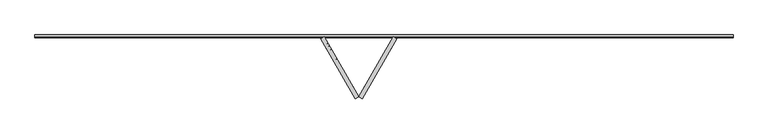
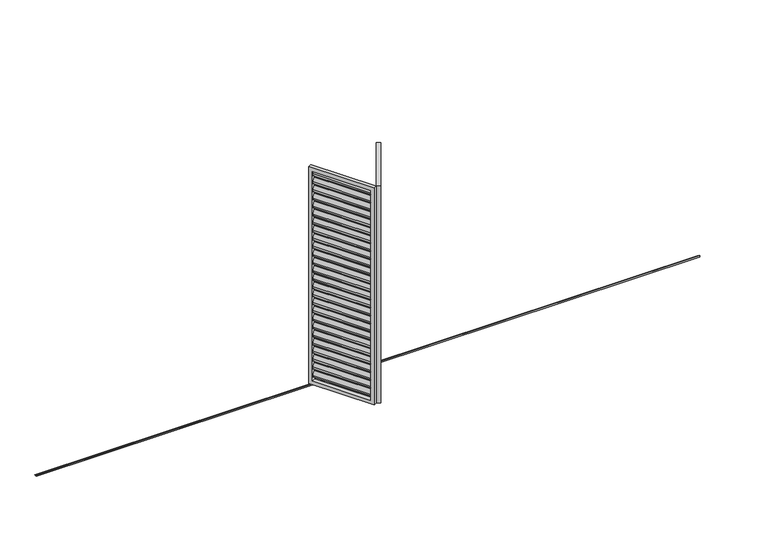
"""IFC4 building model written with IfcOpenShell, lengths in millimetres: proxy geometry, Renson_Amani_Loggia_Paro_Aluminium_Folding : Renson_Amani_Loggia_Paro_Aluminium_Folding."""

from ifc_helpers import new_model, si_unit, point, frame, frame_2d, origin, place, context, project, spatial, polyline, circle_curve, trimmed, segment, composite_curve, outline, extrude, source, transform, mapped, element, save


def generic_models_dd5ebc42(model_context):
    return source(origin(), model_context, "Body", "SweptSolid", [
        extrude(outline(polyline([(2380.0, -40.0), (-40.0, -40.0), (-40.0, 651.9999999), (2380.0, 651.9999999), (2380.0, -40.0)]), holes=[polyline([(2340.0, 612.0), (0.0, 612.0), (0.0, 0.0), (2340.0, 0.0), (2340.0, 612.0)])]), frame((435.2820323, 34.6410162, 85.0), z_axis=(-0.8660254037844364, 0.5000000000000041, 0.0), x_axis=(0.0, 0.0, 1.0)), (0.0, 0.0, 1.0), 40.0),
        extrude(outline(composite_curve([segment(polyline([(-44.0658831, 0.0), (0.8886405, 0.0), (17.0325667, -10.4839883)]), True, "CONTINUOUS"), segment(trimmed(circle_curve(frame_2d((15.3986496, -13.0)), 3.0), [point((17.0325667, -10.4839883))], [point((15.3986496, -16.0))], False, "CARTESIAN"), True, "CONTINUOUS"), segment(polyline([(15.3986496, -16.0), (-28.6672334, -16.0)]), True, "CONTINUOUS"), segment(trimmed(circle_curve(frame_2d((-28.6672334, -13.0)), 3.0), [point((-28.6672334, -16.0))], [point((-30.3011505, -15.5160117))], False, "CARTESIAN"), True, "CONTINUOUS"), segment(polyline([(-30.3011505, -15.5160117), (-45.6998002, -5.5160117)]), True, "CONTINUOUS"), segment(trimmed(circle_curve(frame_2d((-44.0658831, -3.0)), 3.0), [point((-45.6998002, -5.5160117))], [point((-44.0658831, 0.0))], False, "CARTESIAN"), True, "CONTINUOUS")], self_intersect=False)), frame((331.3274249, 37.7168064, 2397.3359298), z_axis=(-0.5000000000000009, 0.8660254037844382, 0.0), x_axis=(-0.47167124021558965, -0.27231951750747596, -0.8386705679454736)), (0.0, 0.0, 1.0), 612.0),
        extrude(outline(composite_curve([segment(polyline([(-44.0658831, 0.0), (0.8886405, 0.0), (17.0325667, -10.4839883)]), True, "CONTINUOUS"), segment(trimmed(circle_curve(frame_2d((15.3986496, -13.0)), 3.0), [point((17.0325667, -10.4839883))], [point((15.3986496, -16.0))], False, "CARTESIAN"), True, "CONTINUOUS"), segment(polyline([(15.3986496, -16.0), (-28.6672334, -16.0)]), True, "CONTINUOUS"), segment(trimmed(circle_curve(frame_2d((-28.6672334, -13.0)), 3.0), [point((-28.6672334, -16.0))], [point((-30.3011505, -15.5160117))], False, "CARTESIAN"), True, "CONTINUOUS"), segment(polyline([(-30.3011505, -15.5160117), (-45.6998002, -5.5160117)]), True, "CONTINUOUS"), segment(trimmed(circle_curve(frame_2d((-44.0658831, -3.0)), 3.0), [point((-45.6998002, -5.5160117))], [point((-44.0658831, 0.0))], False, "CARTESIAN"), True, "CONTINUOUS")], self_intersect=False)), frame((331.3274249, 37.7168064, 2307.3359298), z_axis=(-0.5000000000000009, 0.8660254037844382, 0.0), x_axis=(-0.47167124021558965, -0.27231951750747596, -0.8386705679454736)), (0.0, 0.0, 1.0), 612.0),
        extrude(outline(composite_curve([segment(polyline([(-44.0658831, 0.0), (0.8886405, 0.0), (17.0325667, -10.4839883)]), True, "CONTINUOUS"), segment(trimmed(circle_curve(frame_2d((15.3986496, -13.0)), 3.0), [point((17.0325667, -10.4839883))], [point((15.3986496, -16.0))], False, "CARTESIAN"), True, "CONTINUOUS"), segment(polyline([(15.3986496, -16.0), (-28.6672334, -16.0)]), True, "CONTINUOUS"), segment(trimmed(circle_curve(frame_2d((-28.6672334, -13.0)), 3.0), [point((-28.6672334, -16.0))], [point((-30.3011505, -15.5160117))], False, "CARTESIAN"), True, "CONTINUOUS"), segment(polyline([(-30.3011505, -15.5160117), (-45.6998002, -5.5160117)]), True, "CONTINUOUS"), segment(trimmed(circle_curve(frame_2d((-44.0658831, -3.0)), 3.0), [point((-45.6998002, -5.5160117))], [point((-44.0658831, 0.0))], False, "CARTESIAN"), True, "CONTINUOUS")], self_intersect=False)), frame((331.3274249, 37.7168064, 2217.3359298), z_axis=(-0.5000000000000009, 0.8660254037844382, 0.0), x_axis=(-0.47167124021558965, -0.27231951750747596, -0.8386705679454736)), (0.0, 0.0, 1.0), 612.0),
        extrude(outline(composite_curve([segment(polyline([(-44.0658831, 0.0), (0.8886405, 0.0), (17.0325667, -10.4839883)]), True, "CONTINUOUS"), segment(trimmed(circle_curve(frame_2d((15.3986496, -13.0)), 3.0), [point((17.0325667, -10.4839883))], [point((15.3986496, -16.0))], False, "CARTESIAN"), True, "CONTINUOUS"), segment(polyline([(15.3986496, -16.0), (-28.6672334, -16.0)]), True, "CONTINUOUS"), segment(trimmed(circle_curve(frame_2d((-28.6672334, -13.0)), 3.0), [point((-28.6672334, -16.0))], [point((-30.3011505, -15.5160117))], False, "CARTESIAN"), True, "CONTINUOUS"), segment(polyline([(-30.3011505, -15.5160117), (-45.6998002, -5.5160117)]), True, "CONTINUOUS"), segment(trimmed(circle_curve(frame_2d((-44.0658831, -3.0)), 3.0), [point((-45.6998002, -5.5160117))], [point((-44.0658831, 0.0))], False, "CARTESIAN"), True, "CONTINUOUS")], self_intersect=False)), frame((331.3274249, 37.7168064, 2127.3359298), z_axis=(-0.5000000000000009, 0.8660254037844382, 0.0), x_axis=(-0.47167124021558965, -0.27231951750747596, -0.8386705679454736)), (0.0, 0.0, 1.0), 612.0),
        extrude(outline(composite_curve([segment(polyline([(-44.0658831, 0.0), (0.8886405, 0.0), (17.0325667, -10.4839883)]), True, "CONTINUOUS"), segment(trimmed(circle_curve(frame_2d((15.3986496, -13.0)), 3.0), [point((17.0325667, -10.4839883))], [point((15.3986496, -16.0))], False, "CARTESIAN"), True, "CONTINUOUS"), segment(polyline([(15.3986496, -16.0), (-28.6672334, -16.0)]), True, "CONTINUOUS"), segment(trimmed(circle_curve(frame_2d((-28.6672334, -13.0)), 3.0), [point((-28.6672334, -16.0))], [point((-30.3011505, -15.5160117))], False, "CARTESIAN"), True, "CONTINUOUS"), segment(polyline([(-30.3011505, -15.5160117), (-45.6998002, -5.5160117)]), True, "CONTINUOUS"), segment(trimmed(circle_curve(frame_2d((-44.0658831, -3.0)), 3.0), [point((-45.6998002, -5.5160117))], [point((-44.0658831, 0.0))], False, "CARTESIAN"), True, "CONTINUOUS")], self_intersect=False)), frame((331.3274249, 37.7168064, 2037.3359298), z_axis=(-0.5000000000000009, 0.8660254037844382, 0.0), x_axis=(-0.47167124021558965, -0.27231951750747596, -0.8386705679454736)), (0.0, 0.0, 1.0), 612.0),
        extrude(outline(composite_curve([segment(polyline([(-44.0658831, 0.0), (0.8886405, 0.0), (17.0325667, -10.4839883)]), True, "CONTINUOUS"), segment(trimmed(circle_curve(frame_2d((15.3986496, -13.0)), 3.0), [point((17.0325667, -10.4839883))], [point((15.3986496, -16.0))], False, "CARTESIAN"), True, "CONTINUOUS"), segment(polyline([(15.3986496, -16.0), (-28.6672334, -16.0)]), True, "CONTINUOUS"), segment(trimmed(circle_curve(frame_2d((-28.6672334, -13.0)), 3.0), [point((-28.6672334, -16.0))], [point((-30.3011505, -15.5160117))], False, "CARTESIAN"), True, "CONTINUOUS"), segment(polyline([(-30.3011505, -15.5160117), (-45.6998002, -5.5160117)]), True, "CONTINUOUS"), segment(trimmed(circle_curve(frame_2d((-44.0658831, -3.0)), 3.0), [point((-45.6998002, -5.5160117))], [point((-44.0658831, 0.0))], False, "CARTESIAN"), True, "CONTINUOUS")], self_intersect=False)), frame((331.3274249, 37.7168064, 1947.3359298), z_axis=(-0.5000000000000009, 0.8660254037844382, 0.0), x_axis=(-0.47167124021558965, -0.27231951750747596, -0.8386705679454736)), (0.0, 0.0, 1.0), 612.0),
        extrude(outline(composite_curve([segment(polyline([(-44.0658831, 0.0), (0.8886405, 0.0), (17.0325667, -10.4839883)]), True, "CONTINUOUS"), segment(trimmed(circle_curve(frame_2d((15.3986496, -13.0)), 3.0), [point((17.0325667, -10.4839883))], [point((15.3986496, -16.0))], False, "CARTESIAN"), True, "CONTINUOUS"), segment(polyline([(15.3986496, -16.0), (-28.6672334, -16.0)]), True, "CONTINUOUS"), segment(trimmed(circle_curve(frame_2d((-28.6672334, -13.0)), 3.0), [point((-28.6672334, -16.0))], [point((-30.3011505, -15.5160117))], False, "CARTESIAN"), True, "CONTINUOUS"), segment(polyline([(-30.3011505, -15.5160117), (-45.6998002, -5.5160117)]), True, "CONTINUOUS"), segment(trimmed(circle_curve(frame_2d((-44.0658831, -3.0)), 3.0), [point((-45.6998002, -5.5160117))], [point((-44.0658831, 0.0))], False, "CARTESIAN"), True, "CONTINUOUS")], self_intersect=False)), frame((331.3274249, 37.7168064, 1857.3359298), z_axis=(-0.5000000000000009, 0.8660254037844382, 0.0), x_axis=(-0.47167124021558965, -0.27231951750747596, -0.8386705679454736)), (0.0, 0.0, 1.0), 612.0),
        extrude(outline(composite_curve([segment(polyline([(-44.0658831, 0.0), (0.8886405, 0.0), (17.0325667, -10.4839883)]), True, "CONTINUOUS"), segment(trimmed(circle_curve(frame_2d((15.3986496, -13.0)), 3.0), [point((17.0325667, -10.4839883))], [point((15.3986496, -16.0))], False, "CARTESIAN"), True, "CONTINUOUS"), segment(polyline([(15.3986496, -16.0), (-28.6672334, -16.0)]), True, "CONTINUOUS"), segment(trimmed(circle_curve(frame_2d((-28.6672334, -13.0)), 3.0), [point((-28.6672334, -16.0))], [point((-30.3011505, -15.5160117))], False, "CARTESIAN"), True, "CONTINUOUS"), segment(polyline([(-30.3011505, -15.5160117), (-45.6998002, -5.5160117)]), True, "CONTINUOUS"), segment(trimmed(circle_curve(frame_2d((-44.0658831, -3.0)), 3.0), [point((-45.6998002, -5.5160117))], [point((-44.0658831, 0.0))], False, "CARTESIAN"), True, "CONTINUOUS")], self_intersect=False)), frame((331.3274249, 37.7168064, 1767.3359298), z_axis=(-0.5000000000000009, 0.8660254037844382, 0.0), x_axis=(-0.47167124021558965, -0.27231951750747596, -0.8386705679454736)), (0.0, 0.0, 1.0), 612.0),
        extrude(outline(composite_curve([segment(polyline([(-44.0658831, 0.0), (0.8886405, 0.0), (17.0325667, -10.4839883)]), True, "CONTINUOUS"), segment(trimmed(circle_curve(frame_2d((15.3986496, -13.0)), 3.0), [point((17.0325667, -10.4839883))], [point((15.3986496, -16.0))], False, "CARTESIAN"), True, "CONTINUOUS"), segment(polyline([(15.3986496, -16.0), (-28.6672334, -16.0)]), True, "CONTINUOUS"), segment(trimmed(circle_curve(frame_2d((-28.6672334, -13.0)), 3.0), [point((-28.6672334, -16.0))], [point((-30.3011505, -15.5160117))], False, "CARTESIAN"), True, "CONTINUOUS"), segment(polyline([(-30.3011505, -15.5160117), (-45.6998002, -5.5160117)]), True, "CONTINUOUS"), segment(trimmed(circle_curve(frame_2d((-44.0658831, -3.0)), 3.0), [point((-45.6998002, -5.5160117))], [point((-44.0658831, 0.0))], False, "CARTESIAN"), True, "CONTINUOUS")], self_intersect=False)), frame((331.3274249, 37.7168064, 1677.3359298), z_axis=(-0.5000000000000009, 0.8660254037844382, 0.0), x_axis=(-0.47167124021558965, -0.27231951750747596, -0.8386705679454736)), (0.0, 0.0, 1.0), 612.0),
        extrude(outline(composite_curve([segment(polyline([(-44.0658831, 0.0), (0.8886405, 0.0), (17.0325667, -10.4839883)]), True, "CONTINUOUS"), segment(trimmed(circle_curve(frame_2d((15.3986496, -13.0)), 3.0), [point((17.0325667, -10.4839883))], [point((15.3986496, -16.0))], False, "CARTESIAN"), True, "CONTINUOUS"), segment(polyline([(15.3986496, -16.0), (-28.6672334, -16.0)]), True, "CONTINUOUS"), segment(trimmed(circle_curve(frame_2d((-28.6672334, -13.0)), 3.0), [point((-28.6672334, -16.0))], [point((-30.3011505, -15.5160117))], False, "CARTESIAN"), True, "CONTINUOUS"), segment(polyline([(-30.3011505, -15.5160117), (-45.6998002, -5.5160117)]), True, "CONTINUOUS"), segment(trimmed(circle_curve(frame_2d((-44.0658831, -3.0)), 3.0), [point((-45.6998002, -5.5160117))], [point((-44.0658831, 0.0))], False, "CARTESIAN"), True, "CONTINUOUS")], self_intersect=False)), frame((331.3274249, 37.7168064, 1587.3359298), z_axis=(-0.5000000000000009, 0.8660254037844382, 0.0), x_axis=(-0.47167124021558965, -0.27231951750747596, -0.8386705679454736)), (0.0, 0.0, 1.0), 612.0),
        extrude(outline(composite_curve([segment(polyline([(-44.0658831, 0.0), (0.8886405, 0.0), (17.0325667, -10.4839883)]), True, "CONTINUOUS"), segment(trimmed(circle_curve(frame_2d((15.3986496, -13.0)), 3.0), [point((17.0325667, -10.4839883))], [point((15.3986496, -16.0))], False, "CARTESIAN"), True, "CONTINUOUS"), segment(polyline([(15.3986496, -16.0), (-28.6672334, -16.0)]), True, "CONTINUOUS"), segment(trimmed(circle_curve(frame_2d((-28.6672334, -13.0)), 3.0), [point((-28.6672334, -16.0))], [point((-30.3011505, -15.5160117))], False, "CARTESIAN"), True, "CONTINUOUS"), segment(polyline([(-30.3011505, -15.5160117), (-45.6998002, -5.5160117)]), True, "CONTINUOUS"), segment(trimmed(circle_curve(frame_2d((-44.0658831, -3.0)), 3.0), [point((-45.6998002, -5.5160117))], [point((-44.0658831, 0.0))], False, "CARTESIAN"), True, "CONTINUOUS")], self_intersect=False)), frame((331.3274249, 37.7168064, 1497.3359298), z_axis=(-0.5000000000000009, 0.8660254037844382, 0.0), x_axis=(-0.47167124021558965, -0.27231951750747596, -0.8386705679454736)), (0.0, 0.0, 1.0), 612.0),
        extrude(outline(composite_curve([segment(polyline([(-44.0658831, 0.0), (0.8886405, 0.0), (17.0325667, -10.4839883)]), True, "CONTINUOUS"), segment(trimmed(circle_curve(frame_2d((15.3986496, -13.0)), 3.0), [point((17.0325667, -10.4839883))], [point((15.3986496, -16.0))], False, "CARTESIAN"), True, "CONTINUOUS"), segment(polyline([(15.3986496, -16.0), (-28.6672334, -16.0)]), True, "CONTINUOUS"), segment(trimmed(circle_curve(frame_2d((-28.6672334, -13.0)), 3.0), [point((-28.6672334, -16.0))], [point((-30.3011505, -15.5160117))], False, "CARTESIAN"), True, "CONTINUOUS"), segment(polyline([(-30.3011505, -15.5160117), (-45.6998002, -5.5160117)]), True, "CONTINUOUS"), segment(trimmed(circle_curve(frame_2d((-44.0658831, -3.0)), 3.0), [point((-45.6998002, -5.5160117))], [point((-44.0658831, 0.0))], False, "CARTESIAN"), True, "CONTINUOUS")], self_intersect=False)), frame((331.3274249, 37.7168064, 1407.3359298), z_axis=(-0.5000000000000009, 0.8660254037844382, 0.0), x_axis=(-0.47167124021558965, -0.27231951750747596, -0.8386705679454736)), (0.0, 0.0, 1.0), 612.0),
        extrude(outline(composite_curve([segment(polyline([(-44.0658831, 0.0), (0.8886405, 0.0), (17.0325667, -10.4839883)]), True, "CONTINUOUS"), segment(trimmed(circle_curve(frame_2d((15.3986496, -13.0)), 3.0), [point((17.0325667, -10.4839883))], [point((15.3986496, -16.0))], False, "CARTESIAN"), True, "CONTINUOUS"), segment(polyline([(15.3986496, -16.0), (-28.6672334, -16.0)]), True, "CONTINUOUS"), segment(trimmed(circle_curve(frame_2d((-28.6672334, -13.0)), 3.0), [point((-28.6672334, -16.0))], [point((-30.3011505, -15.5160117))], False, "CARTESIAN"), True, "CONTINUOUS"), segment(polyline([(-30.3011505, -15.5160117), (-45.6998002, -5.5160117)]), True, "CONTINUOUS"), segment(trimmed(circle_curve(frame_2d((-44.0658831, -3.0)), 3.0), [point((-45.6998002, -5.5160117))], [point((-44.0658831, 0.0))], False, "CARTESIAN"), True, "CONTINUOUS")], self_intersect=False)), frame((331.3274249, 37.7168064, 1317.3359298), z_axis=(-0.5000000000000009, 0.8660254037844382, 0.0), x_axis=(-0.47167124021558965, -0.27231951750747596, -0.8386705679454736)), (0.0, 0.0, 1.0), 612.0),
        extrude(outline(composite_curve([segment(polyline([(-44.0658831, 0.0), (0.8886405, 0.0), (17.0325667, -10.4839883)]), True, "CONTINUOUS"), segment(trimmed(circle_curve(frame_2d((15.3986496, -13.0)), 3.0), [point((17.0325667, -10.4839883))], [point((15.3986496, -16.0))], False, "CARTESIAN"), True, "CONTINUOUS"), segment(polyline([(15.3986496, -16.0), (-28.6672334, -16.0)]), True, "CONTINUOUS"), segment(trimmed(circle_curve(frame_2d((-28.6672334, -13.0)), 3.0), [point((-28.6672334, -16.0))], [point((-30.3011505, -15.5160117))], False, "CARTESIAN"), True, "CONTINUOUS"), segment(polyline([(-30.3011505, -15.5160117), (-45.6998002, -5.5160117)]), True, "CONTINUOUS"), segment(trimmed(circle_curve(frame_2d((-44.0658831, -3.0)), 3.0), [point((-45.6998002, -5.5160117))], [point((-44.0658831, 0.0))], False, "CARTESIAN"), True, "CONTINUOUS")], self_intersect=False)), frame((331.3274249, 37.7168064, 1227.3359298), z_axis=(-0.5000000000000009, 0.8660254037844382, 0.0), x_axis=(-0.47167124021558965, -0.27231951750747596, -0.8386705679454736)), (0.0, 0.0, 1.0), 612.0),
        extrude(outline(composite_curve([segment(polyline([(-44.0658831, 0.0), (0.8886405, 0.0), (17.0325667, -10.4839883)]), True, "CONTINUOUS"), segment(trimmed(circle_curve(frame_2d((15.3986496, -13.0)), 3.0), [point((17.0325667, -10.4839883))], [point((15.3986496, -16.0))], False, "CARTESIAN"), True, "CONTINUOUS"), segment(polyline([(15.3986496, -16.0), (-28.6672334, -16.0)]), True, "CONTINUOUS"), segment(trimmed(circle_curve(frame_2d((-28.6672334, -13.0)), 3.0), [point((-28.6672334, -16.0))], [point((-30.3011505, -15.5160117))], False, "CARTESIAN"), True, "CONTINUOUS"), segment(polyline([(-30.3011505, -15.5160117), (-45.6998002, -5.5160117)]), True, "CONTINUOUS"), segment(trimmed(circle_curve(frame_2d((-44.0658831, -3.0)), 3.0), [point((-45.6998002, -5.5160117))], [point((-44.0658831, 0.0))], False, "CARTESIAN"), True, "CONTINUOUS")], self_intersect=False)), frame((331.3274249, 37.7168064, 1137.3359298), z_axis=(-0.5000000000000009, 0.8660254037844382, 0.0), x_axis=(-0.47167124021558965, -0.27231951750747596, -0.8386705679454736)), (0.0, 0.0, 1.0), 612.0),
        extrude(outline(composite_curve([segment(polyline([(-44.0658831, 0.0), (0.8886405, 0.0), (17.0325667, -10.4839883)]), True, "CONTINUOUS"), segment(trimmed(circle_curve(frame_2d((15.3986496, -13.0)), 3.0), [point((17.0325667, -10.4839883))], [point((15.3986496, -16.0))], False, "CARTESIAN"), True, "CONTINUOUS"), segment(polyline([(15.3986496, -16.0), (-28.6672334, -16.0)]), True, "CONTINUOUS"), segment(trimmed(circle_curve(frame_2d((-28.6672334, -13.0)), 3.0), [point((-28.6672334, -16.0))], [point((-30.3011505, -15.5160117))], False, "CARTESIAN"), True, "CONTINUOUS"), segment(polyline([(-30.3011505, -15.5160117), (-45.6998002, -5.5160117)]), True, "CONTINUOUS"), segment(trimmed(circle_curve(frame_2d((-44.0658831, -3.0)), 3.0), [point((-45.6998002, -5.5160117))], [point((-44.0658831, 0.0))], False, "CARTESIAN"), True, "CONTINUOUS")], self_intersect=False)), frame((331.3274249, 37.7168064, 1047.3359298), z_axis=(-0.5000000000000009, 0.8660254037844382, 0.0), x_axis=(-0.47167124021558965, -0.27231951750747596, -0.8386705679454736)), (0.0, 0.0, 1.0), 612.0),
        extrude(outline(composite_curve([segment(polyline([(-44.0658831, 0.0), (0.8886405, 0.0), (17.0325667, -10.4839883)]), True, "CONTINUOUS"), segment(trimmed(circle_curve(frame_2d((15.3986496, -13.0)), 3.0), [point((17.0325667, -10.4839883))], [point((15.3986496, -16.0))], False, "CARTESIAN"), True, "CONTINUOUS"), segment(polyline([(15.3986496, -16.0), (-28.6672334, -16.0)]), True, "CONTINUOUS"), segment(trimmed(circle_curve(frame_2d((-28.6672334, -13.0)), 3.0), [point((-28.6672334, -16.0))], [point((-30.3011505, -15.5160117))], False, "CARTESIAN"), True, "CONTINUOUS"), segment(polyline([(-30.3011505, -15.5160117), (-45.6998002, -5.5160117)]), True, "CONTINUOUS"), segment(trimmed(circle_curve(frame_2d((-44.0658831, -3.0)), 3.0), [point((-45.6998002, -5.5160117))], [point((-44.0658831, 0.0))], False, "CARTESIAN"), True, "CONTINUOUS")], self_intersect=False)), frame((331.3274249, 37.7168064, 957.3359298), z_axis=(-0.5000000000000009, 0.8660254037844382, 0.0), x_axis=(-0.47167124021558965, -0.27231951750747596, -0.8386705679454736)), (0.0, 0.0, 1.0), 612.0),
        extrude(outline(composite_curve([segment(polyline([(-44.0658831, 0.0), (0.8886405, 0.0), (17.0325667, -10.4839883)]), True, "CONTINUOUS"), segment(trimmed(circle_curve(frame_2d((15.3986496, -13.0)), 3.0), [point((17.0325667, -10.4839883))], [point((15.3986496, -16.0))], False, "CARTESIAN"), True, "CONTINUOUS"), segment(polyline([(15.3986496, -16.0), (-28.6672334, -16.0)]), True, "CONTINUOUS"), segment(trimmed(circle_curve(frame_2d((-28.6672334, -13.0)), 3.0), [point((-28.6672334, -16.0))], [point((-30.3011505, -15.5160117))], False, "CARTESIAN"), True, "CONTINUOUS"), segment(polyline([(-30.3011505, -15.5160117), (-45.6998002, -5.5160117)]), True, "CONTINUOUS"), segment(trimmed(circle_curve(frame_2d((-44.0658831, -3.0)), 3.0), [point((-45.6998002, -5.5160117))], [point((-44.0658831, 0.0))], False, "CARTESIAN"), True, "CONTINUOUS")], self_intersect=False)), frame((331.3274249, 37.7168064, 867.3359298), z_axis=(-0.5000000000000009, 0.8660254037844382, 0.0), x_axis=(-0.47167124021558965, -0.27231951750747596, -0.8386705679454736)), (0.0, 0.0, 1.0), 612.0),
        extrude(outline(composite_curve([segment(polyline([(-44.0658831, 0.0), (0.8886405, 0.0), (17.0325667, -10.4839883)]), True, "CONTINUOUS"), segment(trimmed(circle_curve(frame_2d((15.3986496, -13.0)), 3.0), [point((17.0325667, -10.4839883))], [point((15.3986496, -16.0))], False, "CARTESIAN"), True, "CONTINUOUS"), segment(polyline([(15.3986496, -16.0), (-28.6672334, -16.0)]), True, "CONTINUOUS"), segment(trimmed(circle_curve(frame_2d((-28.6672334, -13.0)), 3.0), [point((-28.6672334, -16.0))], [point((-30.3011505, -15.5160117))], False, "CARTESIAN"), True, "CONTINUOUS"), segment(polyline([(-30.3011505, -15.5160117), (-45.6998002, -5.5160117)]), True, "CONTINUOUS"), segment(trimmed(circle_curve(frame_2d((-44.0658831, -3.0)), 3.0), [point((-45.6998002, -5.5160117))], [point((-44.0658831, 0.0))], False, "CARTESIAN"), True, "CONTINUOUS")], self_intersect=False)), frame((331.3274249, 37.7168064, 777.3359298), z_axis=(-0.5000000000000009, 0.8660254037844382, 0.0), x_axis=(-0.47167124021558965, -0.27231951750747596, -0.8386705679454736)), (0.0, 0.0, 1.0), 612.0),
        extrude(outline(composite_curve([segment(polyline([(-44.0658831, 0.0), (0.8886405, 0.0), (17.0325667, -10.4839883)]), True, "CONTINUOUS"), segment(trimmed(circle_curve(frame_2d((15.3986496, -13.0)), 3.0), [point((17.0325667, -10.4839883))], [point((15.3986496, -16.0))], False, "CARTESIAN"), True, "CONTINUOUS"), segment(polyline([(15.3986496, -16.0), (-28.6672334, -16.0)]), True, "CONTINUOUS"), segment(trimmed(circle_curve(frame_2d((-28.6672334, -13.0)), 3.0), [point((-28.6672334, -16.0))], [point((-30.3011505, -15.5160117))], False, "CARTESIAN"), True, "CONTINUOUS"), segment(polyline([(-30.3011505, -15.5160117), (-45.6998002, -5.5160117)]), True, "CONTINUOUS"), segment(trimmed(circle_curve(frame_2d((-44.0658831, -3.0)), 3.0), [point((-45.6998002, -5.5160117))], [point((-44.0658831, 0.0))], False, "CARTESIAN"), True, "CONTINUOUS")], self_intersect=False)), frame((331.3274249, 37.7168064, 687.3359298), z_axis=(-0.5000000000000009, 0.8660254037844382, 0.0), x_axis=(-0.47167124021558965, -0.27231951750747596, -0.8386705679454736)), (0.0, 0.0, 1.0), 612.0),
        extrude(outline(composite_curve([segment(polyline([(-44.0658831, 0.0), (0.8886405, 0.0), (17.0325667, -10.4839883)]), True, "CONTINUOUS"), segment(trimmed(circle_curve(frame_2d((15.3986496, -13.0)), 3.0), [point((17.0325667, -10.4839883))], [point((15.3986496, -16.0))], False, "CARTESIAN"), True, "CONTINUOUS"), segment(polyline([(15.3986496, -16.0), (-28.6672334, -16.0)]), True, "CONTINUOUS"), segment(trimmed(circle_curve(frame_2d((-28.6672334, -13.0)), 3.0), [point((-28.6672334, -16.0))], [point((-30.3011505, -15.5160117))], False, "CARTESIAN"), True, "CONTINUOUS"), segment(polyline([(-30.3011505, -15.5160117), (-45.6998002, -5.5160117)]), True, "CONTINUOUS"), segment(trimmed(circle_curve(frame_2d((-44.0658831, -3.0)), 3.0), [point((-45.6998002, -5.5160117))], [point((-44.0658831, 0.0))], False, "CARTESIAN"), True, "CONTINUOUS")], self_intersect=False)), frame((331.3274249, 37.7168064, 597.3359298), z_axis=(-0.5000000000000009, 0.8660254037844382, 0.0), x_axis=(-0.47167124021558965, -0.27231951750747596, -0.8386705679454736)), (0.0, 0.0, 1.0), 612.0),
        extrude(outline(composite_curve([segment(polyline([(-44.0658831, 0.0), (0.8886405, 0.0), (17.0325667, -10.4839883)]), True, "CONTINUOUS"), segment(trimmed(circle_curve(frame_2d((15.3986496, -13.0)), 3.0), [point((17.0325667, -10.4839883))], [point((15.3986496, -16.0))], False, "CARTESIAN"), True, "CONTINUOUS"), segment(polyline([(15.3986496, -16.0), (-28.6672334, -16.0)]), True, "CONTINUOUS"), segment(trimmed(circle_curve(frame_2d((-28.6672334, -13.0)), 3.0), [point((-28.6672334, -16.0))], [point((-30.3011505, -15.5160117))], False, "CARTESIAN"), True, "CONTINUOUS"), segment(polyline([(-30.3011505, -15.5160117), (-45.6998002, -5.5160117)]), True, "CONTINUOUS"), segment(trimmed(circle_curve(frame_2d((-44.0658831, -3.0)), 3.0), [point((-45.6998002, -5.5160117))], [point((-44.0658831, 0.0))], False, "CARTESIAN"), True, "CONTINUOUS")], self_intersect=False)), frame((331.3274249, 37.7168064, 507.3359298), z_axis=(-0.5000000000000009, 0.8660254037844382, 0.0), x_axis=(-0.47167124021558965, -0.27231951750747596, -0.8386705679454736)), (0.0, 0.0, 1.0), 612.0),
        extrude(outline(composite_curve([segment(polyline([(-44.0658831, 0.0), (0.8886405, 0.0), (17.0325667, -10.4839883)]), True, "CONTINUOUS"), segment(trimmed(circle_curve(frame_2d((15.3986496, -13.0)), 3.0), [point((17.0325667, -10.4839883))], [point((15.3986496, -16.0))], False, "CARTESIAN"), True, "CONTINUOUS"), segment(polyline([(15.3986496, -16.0), (-28.6672334, -16.0)]), True, "CONTINUOUS"), segment(trimmed(circle_curve(frame_2d((-28.6672334, -13.0)), 3.0), [point((-28.6672334, -16.0))], [point((-30.3011505, -15.5160117))], False, "CARTESIAN"), True, "CONTINUOUS"), segment(polyline([(-30.3011505, -15.5160117), (-45.6998002, -5.5160117)]), True, "CONTINUOUS"), segment(trimmed(circle_curve(frame_2d((-44.0658831, -3.0)), 3.0), [point((-45.6998002, -5.5160117))], [point((-44.0658831, 0.0))], False, "CARTESIAN"), True, "CONTINUOUS")], self_intersect=False)), frame((331.3274249, 37.7168064, 417.3359298), z_axis=(-0.5000000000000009, 0.8660254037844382, 0.0), x_axis=(-0.47167124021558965, -0.27231951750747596, -0.8386705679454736)), (0.0, 0.0, 1.0), 612.0),
        extrude(outline(composite_curve([segment(polyline([(-44.0658831, 0.0), (0.8886405, 0.0), (17.0325667, -10.4839883)]), True, "CONTINUOUS"), segment(trimmed(circle_curve(frame_2d((15.3986496, -13.0)), 3.0), [point((17.0325667, -10.4839883))], [point((15.3986496, -16.0))], False, "CARTESIAN"), True, "CONTINUOUS"), segment(polyline([(15.3986496, -16.0), (-28.6672334, -16.0)]), True, "CONTINUOUS"), segment(trimmed(circle_curve(frame_2d((-28.6672334, -13.0)), 3.0), [point((-28.6672334, -16.0))], [point((-30.3011505, -15.5160117))], False, "CARTESIAN"), True, "CONTINUOUS"), segment(polyline([(-30.3011505, -15.5160117), (-45.6998002, -5.5160117)]), True, "CONTINUOUS"), segment(trimmed(circle_curve(frame_2d((-44.0658831, -3.0)), 3.0), [point((-45.6998002, -5.5160117))], [point((-44.0658831, 0.0))], False, "CARTESIAN"), True, "CONTINUOUS")], self_intersect=False)), frame((331.3274249, 37.7168064, 327.3359298), z_axis=(-0.5000000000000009, 0.8660254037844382, 0.0), x_axis=(-0.47167124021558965, -0.27231951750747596, -0.8386705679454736)), (0.0, 0.0, 1.0), 612.0),
        extrude(outline(composite_curve([segment(polyline([(-44.0658831, 0.0), (0.8886405, 0.0), (17.0325667, -10.4839883)]), True, "CONTINUOUS"), segment(trimmed(circle_curve(frame_2d((15.3986496, -13.0)), 3.0), [point((17.0325667, -10.4839883))], [point((15.3986496, -16.0))], False, "CARTESIAN"), True, "CONTINUOUS"), segment(polyline([(15.3986496, -16.0), (-28.6672334, -16.0)]), True, "CONTINUOUS"), segment(trimmed(circle_curve(frame_2d((-28.6672334, -13.0)), 3.0), [point((-28.6672334, -16.0))], [point((-30.3011505, -15.5160117))], False, "CARTESIAN"), True, "CONTINUOUS"), segment(polyline([(-30.3011505, -15.5160117), (-45.6998002, -5.5160117)]), True, "CONTINUOUS"), segment(trimmed(circle_curve(frame_2d((-44.0658831, -3.0)), 3.0), [point((-45.6998002, -5.5160117))], [point((-44.0658831, 0.0))], False, "CARTESIAN"), True, "CONTINUOUS")], self_intersect=False)), frame((331.3274249, 37.7168064, 237.3359298), z_axis=(-0.5000000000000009, 0.8660254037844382, 0.0), x_axis=(-0.47167124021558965, -0.27231951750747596, -0.8386705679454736)), (0.0, 0.0, 1.0), 612.0),
        extrude(outline(composite_curve([segment(polyline([(-44.0658831, 0.0), (0.8886405, 0.0), (17.0325667, -10.4839883)]), True, "CONTINUOUS"), segment(trimmed(circle_curve(frame_2d((15.3986496, -13.0)), 3.0), [point((17.0325667, -10.4839883))], [point((15.3986496, -16.0))], False, "CARTESIAN"), True, "CONTINUOUS"), segment(polyline([(15.3986496, -16.0), (-28.6672334, -16.0)]), True, "CONTINUOUS"), segment(trimmed(circle_curve(frame_2d((-28.6672334, -13.0)), 3.0), [point((-28.6672334, -16.0))], [point((-30.3011505, -15.5160117))], False, "CARTESIAN"), True, "CONTINUOUS"), segment(polyline([(-30.3011505, -15.5160117), (-45.6998002, -5.5160117)]), True, "CONTINUOUS"), segment(trimmed(circle_curve(frame_2d((-44.0658831, -3.0)), 3.0), [point((-45.6998002, -5.5160117))], [point((-44.0658831, 0.0))], False, "CARTESIAN"), True, "CONTINUOUS")], self_intersect=False)), frame((331.3274249, 37.7168064, 147.3359298), z_axis=(-0.5000000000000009, 0.8660254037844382, 0.0), x_axis=(-0.47167124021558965, -0.27231951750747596, -0.8386705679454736)), (0.0, 0.0, 1.0), 612.0),
        extrude(outline(polyline([(2380.0, -40.0), (-40.0, -40.0), (-40.0, 652.0), (2380.0, 652.0), (2380.0, -40.0)]), holes=[polyline([(2340.0, 612.0), (0.0, 612.0), (0.0, 0.0), (2340.0, 0.0), (2340.0, 612.0)])]), frame((20.0, 564.6485633, 85.0), z_axis=(0.8660254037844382, 0.5000000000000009, 0.0), x_axis=(0.0, 0.0, 1.0)), (0.0, 0.0, 1.0), 40.0),
        extrude(outline(polyline([(613.2895794, 15.0), (616.2895794, 15.0), (616.2895794, 3.0), (639.2895794, 3.0), (639.2895794, 0.0), (613.2895794, 0.0), (613.2895794, 15.0)])), frame((-2866.0596634, 0.0, 0.0), z_axis=(1.0, 0.0, 0.0), x_axis=(0.0, 1.0, 0.0)), (0.0, 0.0, 1.0), 7000.0),
    ])


if __name__ == "__main__":
    model = new_model("IFC4")
    model_context = context("Model", 3, world=origin())
    ifc_project = project(units=[si_unit("LENGTHUNIT", "METRE", prefix="MILLI")], contexts=[model_context])
    site = spatial("IfcSite", under=ifc_project)
    building = spatial("IfcBuilding", under=site)
    placement = place(None, origin())
    generic_models_shape = generic_models_dd5ebc42(model_context)
    element("IfcBuildingElementProxy", 1, Name="Renson_Amani_Loggia_Paro_Aluminium_Folding : Renson_Amani_Loggia_Paro_Aluminium_Folding", ObjectType="Renson_Amani_Loggia_Paro_Aluminium_Folding : Renson_Amani_Loggia_Paro_Aluminium_Folding", at=placement, inside=building, context=model_context, shape_type="MappedRepresentation", body=[
        mapped(generic_models_shape, transform((0.0, 0.0, 0.0), x_axis=(1.0, 0.0, 0.0), y_axis=(0.0, 1.0, 0.0), z_axis=(0.0, 0.0, 1.0))),
    ])
    save(model, "model.ifc")
